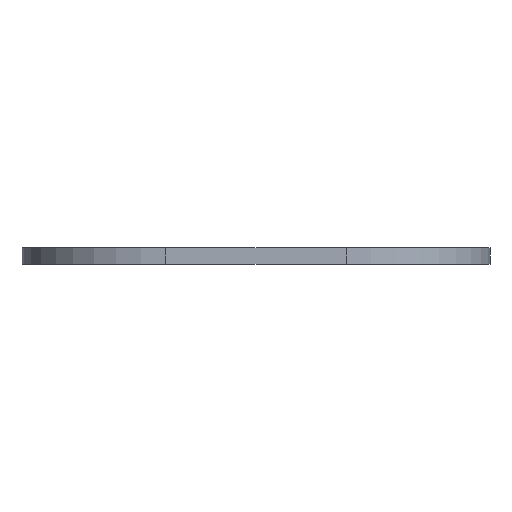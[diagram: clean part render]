
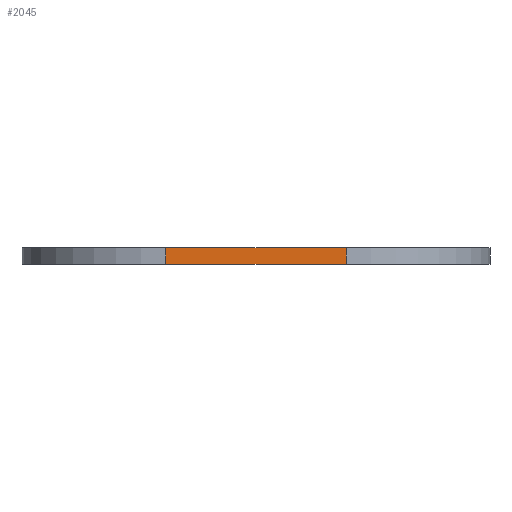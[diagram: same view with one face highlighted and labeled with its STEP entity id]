
A CAD part, front view. The second image highlights one B-rep face of the part: STEP entity #2045.
In plain terms, the highlighted planar face has unit normal (0, -1, 0).
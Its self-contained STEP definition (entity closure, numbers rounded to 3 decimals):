
#44 = PLANE('',#45);
#45 = AXIS2_PLACEMENT_3D('',#46,#47,#48);
#46 = CARTESIAN_POINT('',(0.,0.,-5.8));
#47 = DIRECTION('',(0.,0.,1.));
#48 = DIRECTION('',(1.,0.,-0.));
#100 = PLANE('',#101);
#101 = AXIS2_PLACEMENT_3D('',#102,#103,#104);
#102 = CARTESIAN_POINT('',(0.,0.,-2.8));
#103 = DIRECTION('',(0.,0.,1.));
#104 = DIRECTION('',(1.,0.,-0.));
#198 = VERTEX_POINT('',#199);
#199 = CARTESIAN_POINT('',(-16.,-65.4,-5.8));
#214 = CYLINDRICAL_SURFACE('',#215,25.4);
#215 = AXIS2_PLACEMENT_3D('',#216,#217,#218);
#216 = CARTESIAN_POINT('',(-16.,-40.,-5.8));
#217 = DIRECTION('',(0.,0.,1.));
#218 = DIRECTION('',(-1.,0.,0.));
#226 = EDGE_CURVE('',#198,#227,#229,.T.);
#227 = VERTEX_POINT('',#228);
#228 = CARTESIAN_POINT('',(16.,-65.4,-5.8));
#229 = SURFACE_CURVE('',#230,(#234,#241),.PCURVE_S1.);
#230 = LINE('',#231,#232);
#231 = CARTESIAN_POINT('',(-16.,-65.4,-5.8));
#232 = VECTOR('',#233,1.);
#233 = DIRECTION('',(1.,0.,0.));
#234 = PCURVE('',#44,#235);
#235 = DEFINITIONAL_REPRESENTATION('',(#236),#240);
#236 = LINE('',#237,#238);
#237 = CARTESIAN_POINT('',(-16.,-65.4));
#238 = VECTOR('',#239,1.);
#239 = DIRECTION('',(1.,0.));
#240 = ( GEOMETRIC_REPRESENTATION_CONTEXT(2) 
PARAMETRIC_REPRESENTATION_CONTEXT() REPRESENTATION_CONTEXT('2D SPACE',''
  ) );
#241 = PCURVE('',#242,#247);
#242 = PLANE('',#243);
#243 = AXIS2_PLACEMENT_3D('',#244,#245,#246);
#244 = CARTESIAN_POINT('',(-16.,-65.4,-5.8));
#245 = DIRECTION('',(0.,-1.,0.));
#246 = DIRECTION('',(1.,0.,0.));
#247 = DEFINITIONAL_REPRESENTATION('',(#248),#252);
#248 = LINE('',#249,#250);
#249 = CARTESIAN_POINT('',(0.,0.));
#250 = VECTOR('',#251,1.);
#251 = DIRECTION('',(1.,0.));
#252 = ( GEOMETRIC_REPRESENTATION_CONTEXT(2) 
PARAMETRIC_REPRESENTATION_CONTEXT() REPRESENTATION_CONTEXT('2D SPACE',''
  ) );
#271 = CYLINDRICAL_SURFACE('',#272,25.4);
#272 = AXIS2_PLACEMENT_3D('',#273,#274,#275);
#273 = CARTESIAN_POINT('',(16.,-40.,-5.8));
#274 = DIRECTION('',(0.,0.,1.));
#275 = DIRECTION('',(0.,-1.,0.));
#998 = VERTEX_POINT('',#999);
#999 = CARTESIAN_POINT('',(-16.,-65.4,-2.8));
#1021 = EDGE_CURVE('',#998,#1022,#1024,.T.);
#1022 = VERTEX_POINT('',#1023);
#1023 = CARTESIAN_POINT('',(16.,-65.4,-2.8));
#1024 = SURFACE_CURVE('',#1025,(#1029,#1036),.PCURVE_S1.);
#1025 = LINE('',#1026,#1027);
#1026 = CARTESIAN_POINT('',(-16.,-65.4,-2.8));
#1027 = VECTOR('',#1028,1.);
#1028 = DIRECTION('',(1.,0.,0.));
#1029 = PCURVE('',#100,#1030);
#1030 = DEFINITIONAL_REPRESENTATION('',(#1031),#1035);
#1031 = LINE('',#1032,#1033);
#1032 = CARTESIAN_POINT('',(-16.,-65.4));
#1033 = VECTOR('',#1034,1.);
#1034 = DIRECTION('',(1.,0.));
#1035 = ( GEOMETRIC_REPRESENTATION_CONTEXT(2) 
PARAMETRIC_REPRESENTATION_CONTEXT() REPRESENTATION_CONTEXT('2D SPACE',''
  ) );
#1036 = PCURVE('',#242,#1037);
#1037 = DEFINITIONAL_REPRESENTATION('',(#1038),#1042);
#1038 = LINE('',#1039,#1040);
#1039 = CARTESIAN_POINT('',(0.,3.));
#1040 = VECTOR('',#1041,1.);
#1041 = DIRECTION('',(1.,0.));
#1042 = ( GEOMETRIC_REPRESENTATION_CONTEXT(2) 
PARAMETRIC_REPRESENTATION_CONTEXT() REPRESENTATION_CONTEXT('2D SPACE',''
  ) );
#2025 = EDGE_CURVE('',#227,#1022,#2026,.T.);
#2026 = SURFACE_CURVE('',#2027,(#2031,#2038),.PCURVE_S1.);
#2027 = LINE('',#2028,#2029);
#2028 = CARTESIAN_POINT('',(16.,-65.4,-5.8));
#2029 = VECTOR('',#2030,1.);
#2030 = DIRECTION('',(0.,0.,1.));
#2031 = PCURVE('',#271,#2032);
#2032 = DEFINITIONAL_REPRESENTATION('',(#2033),#2037);
#2033 = LINE('',#2034,#2035);
#2034 = CARTESIAN_POINT('',(0.,0.));
#2035 = VECTOR('',#2036,1.);
#2036 = DIRECTION('',(0.,1.));
#2037 = ( GEOMETRIC_REPRESENTATION_CONTEXT(2) 
PARAMETRIC_REPRESENTATION_CONTEXT() REPRESENTATION_CONTEXT('2D SPACE',''
  ) );
#2038 = PCURVE('',#242,#2039);
#2039 = DEFINITIONAL_REPRESENTATION('',(#2040),#2044);
#2040 = LINE('',#2041,#2042);
#2041 = CARTESIAN_POINT('',(32.,0.));
#2042 = VECTOR('',#2043,1.);
#2043 = DIRECTION('',(0.,1.));
#2044 = ( GEOMETRIC_REPRESENTATION_CONTEXT(2) 
PARAMETRIC_REPRESENTATION_CONTEXT() REPRESENTATION_CONTEXT('2D SPACE',''
  ) );
#2045 = ADVANCED_FACE('',(#2046),#242,.T.);
#2046 = FACE_BOUND('',#2047,.T.);
#2047 = EDGE_LOOP('',(#2048,#2049,#2050,#2051));
#2048 = ORIENTED_EDGE('',*,*,#226,.T.);
#2049 = ORIENTED_EDGE('',*,*,#2025,.T.);
#2050 = ORIENTED_EDGE('',*,*,#1021,.F.);
#2051 = ORIENTED_EDGE('',*,*,#2052,.F.);
#2052 = EDGE_CURVE('',#198,#998,#2053,.T.);
#2053 = SURFACE_CURVE('',#2054,(#2058,#2065),.PCURVE_S1.);
#2054 = LINE('',#2055,#2056);
#2055 = CARTESIAN_POINT('',(-16.,-65.4,-5.8));
#2056 = VECTOR('',#2057,1.);
#2057 = DIRECTION('',(0.,0.,1.));
#2058 = PCURVE('',#242,#2059);
#2059 = DEFINITIONAL_REPRESENTATION('',(#2060),#2064);
#2060 = LINE('',#2061,#2062);
#2061 = CARTESIAN_POINT('',(0.,0.));
#2062 = VECTOR('',#2063,1.);
#2063 = DIRECTION('',(0.,1.));
#2064 = ( GEOMETRIC_REPRESENTATION_CONTEXT(2) 
PARAMETRIC_REPRESENTATION_CONTEXT() REPRESENTATION_CONTEXT('2D SPACE',''
  ) );
#2065 = PCURVE('',#214,#2066);
#2066 = DEFINITIONAL_REPRESENTATION('',(#2067),#2071);
#2067 = LINE('',#2068,#2069);
#2068 = CARTESIAN_POINT('',(1.571,0.));
#2069 = VECTOR('',#2070,1.);
#2070 = DIRECTION('',(0.,1.));
#2071 = ( GEOMETRIC_REPRESENTATION_CONTEXT(2) 
PARAMETRIC_REPRESENTATION_CONTEXT() REPRESENTATION_CONTEXT('2D SPACE',''
  ) );
